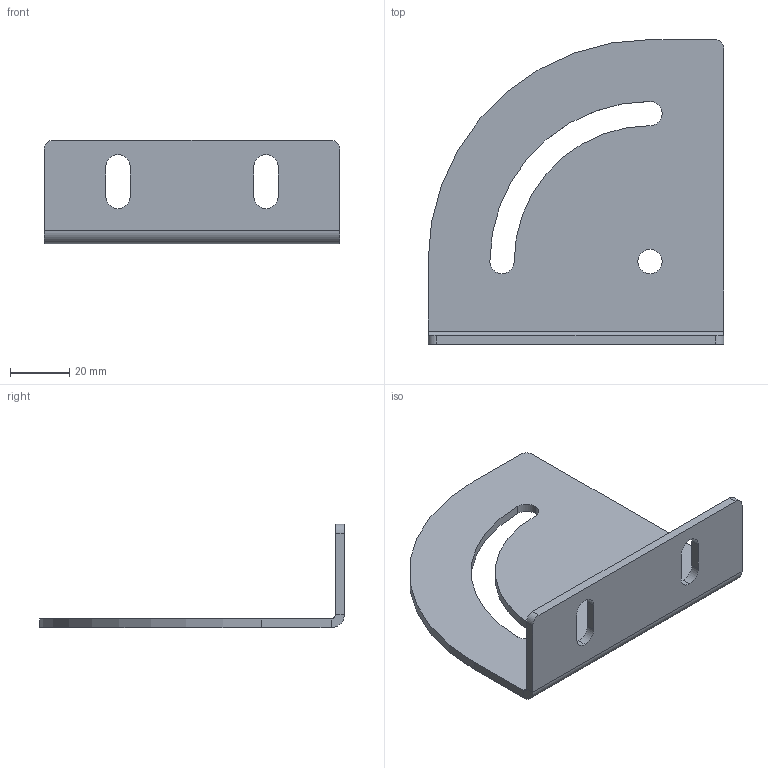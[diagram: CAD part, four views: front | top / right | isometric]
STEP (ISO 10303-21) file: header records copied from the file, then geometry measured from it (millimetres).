
FILE_DESCRIPTION (( 'STEP AP214' ), '1' );
FILE_NAME ('deg90s404550.STEP', '2018-03-09T09:55:54', ( '' ), ( '' ), 'SwSTEP 2.0', 'SolidWorks 2014', '' );
FILE_SCHEMA (( 'AUTOMOTIVE_DESIGN' ));
Length unit declared in the file: millimetre
Products named in the file (2): deg90s404550
Bounding box: 100 x 103 x 35 mm (x, y, z)
Volume: 33417.1 mm3; surface area: 24472.6 mm2
Topology: 1 solids, 1 shells, 35 faces, 91 edges, 58 vertices
Faces by surface type: cylinder 19, plane 16
Entity records: 1144 total; most frequent: DIRECTION 203, CARTESIAN_POINT 186, ORIENTED_EDGE 182, EDGE_CURVE 91, AXIS2_PLACEMENT_3D 75, VERTEX_POINT 58, LINE 53, VECTOR 53
